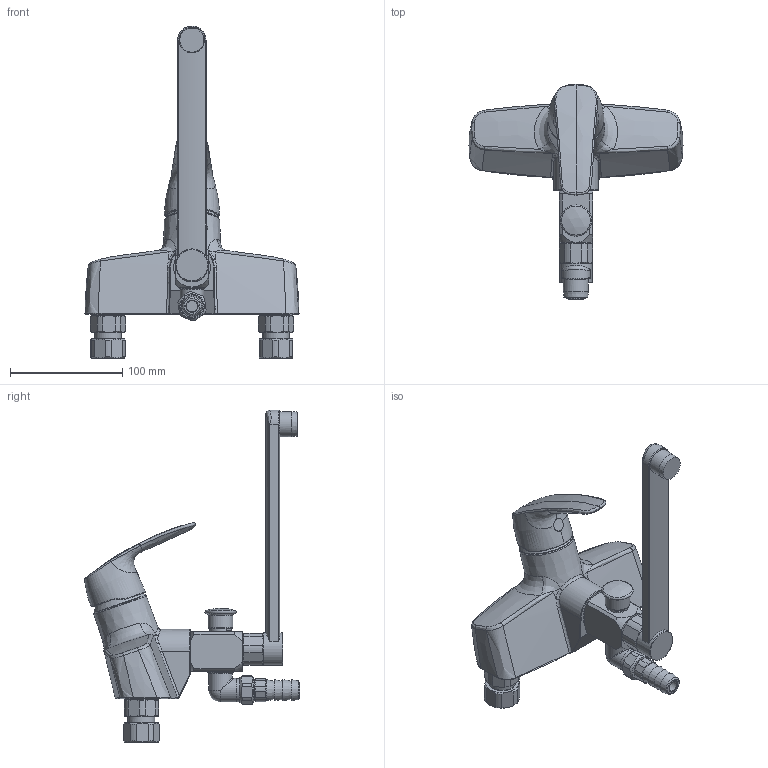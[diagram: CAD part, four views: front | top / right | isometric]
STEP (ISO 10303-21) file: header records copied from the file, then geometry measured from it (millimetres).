
FILE_DESCRIPTION (( 'STEP AP203' ), '1' );
FILE_NAME ('1074(2017).STEP', '2017-03-09T05:42:14', ( '' ), ( '' ), 'SwSTEP 2.0', 'SolidWorks 2016', '' );
FILE_SCHEMA (( 'CONFIG_CONTROL_DESIGN' ));
Length unit declared in the file: millimetre
Products named in the file (1): 1074(2017)
Bounding box: 191.05 x 192.04 x 296.33 mm (x, y, z)
Volume: 848062.7 mm3; surface area: 109238.7 mm2
Topology: 1 solids, 4 shells, 390 faces, 901 edges, 556 vertices
Faces by surface type: plane 103, cylinder 94, bspline 94, cone 90, torus 7, sphere 2
Full cylindrical faces by diameter (mm): 10 x1, 12.5 x2, 13.917 x1, 14 x1, 17.353 x1, 19 x3, 20.955 x1, 21 x3, 21.2 x2, 21.5 x1, 22 x1, 22.471 x1, 23 x1, 24 x2, 24.7 x2, 26 x2, 26.441 x1, 26.7 x2, 28.175 x1, 29 x3, 33 x1
Entity records: 24396 total; most frequent: CARTESIAN_POINT 16853, ORIENTED_EDGE 1596, DIRECTION 1324, EDGE_CURVE 798, AXIS2_PLACEMENT_3D 597, VERTEX_POINT 522, EDGE_LOOP 496, FACE_OUTER_BOUND 434
